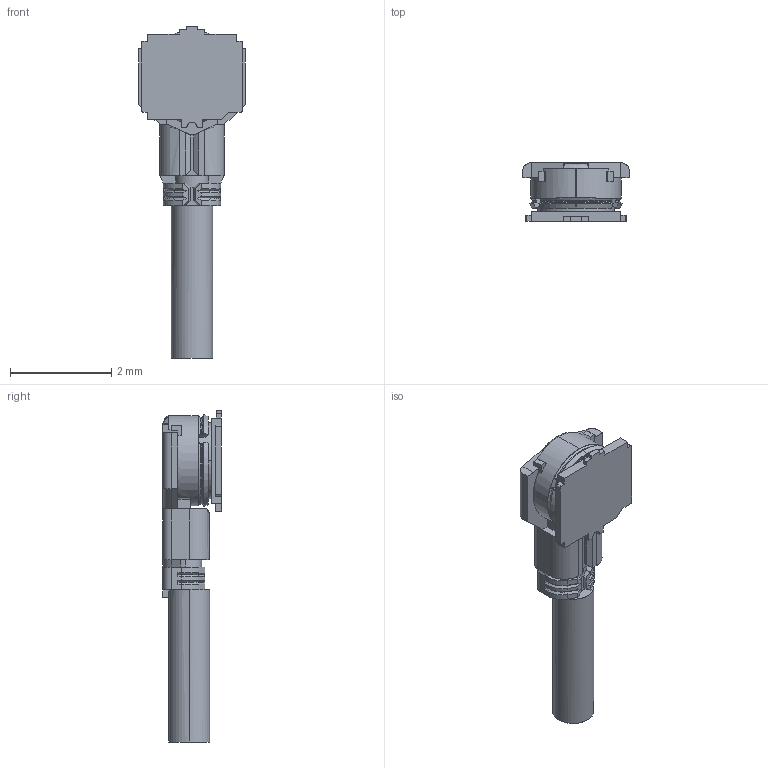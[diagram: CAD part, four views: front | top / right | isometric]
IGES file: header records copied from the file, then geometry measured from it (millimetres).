
Start section: SolidWorks IGES file using analytic representation for surfaces
Global section: file name: C:\3dwork\imaji\00.Web model check\00. New 3D\MHF 4\20448-001R-081+20449-001EC MATING IGES R10R5 ALL.IGS; native system: SolidWorks 2017; preprocessor: SolidWorks 2017; author: ipxcad-013; date: 180501.210526; units: millimetre
Bounding box: 2.1 x 1.16 x 6.55 mm (x, y, z)
Surface area: 33.6 mm2 (no closed solid volume)
Topology: 0 solids, 0 shells, 230 faces, 1431 edges, 1431 vertices
Faces by surface type: bspline 176, revolution 54
